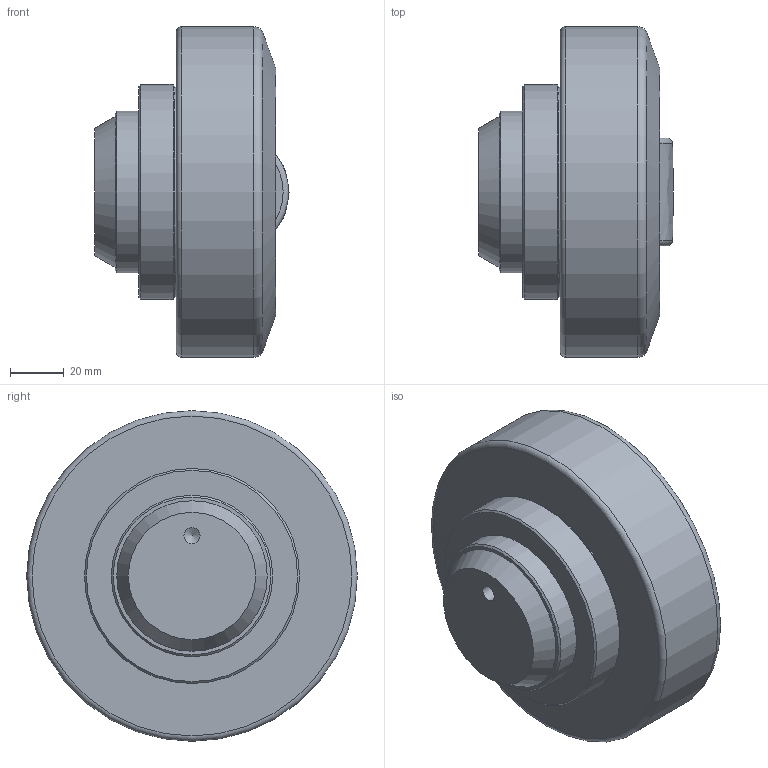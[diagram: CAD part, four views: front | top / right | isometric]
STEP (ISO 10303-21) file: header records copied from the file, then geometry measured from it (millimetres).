
FILE_DESCRIPTION(/* description */ (''),/* implementation_level */ '2;1');
FILE_NAME(/* name */ 'C:\Users\gabriele oddo\Desktop\400-0228.STEP',/* time_stamp */ '2023-07-27T12:06:17+02:00',/* author */ ('gabriele oddo'),/* organization */ (''),/* preprocessor_version */ 'ST-DEVELOPER v19',/* originating_system */ 'Autodesk Inventor 2023',/* authorisation */ '');
FILE_SCHEMA (('AUTOMOTIVE_DESIGN { 1 0 10303 214 3 1 1 }'));
Length unit declared in the file: millimetre
Products named in the file (1): 400-0228
Bounding box: 72.3 x 123 x 123 mm (x, y, z)
Volume: 537614.8 mm3; surface area: 42212.2 mm2
Topology: 1 solids, 1 shells, 60 faces, 134 edges, 89 vertices
Faces by surface type: plane 40, cylinder 9, cone 6, torus 4, bspline 1
Full cylindrical faces by diameter (mm): 6 x1, 12.5 x4, 60 x1, 78 x1, 80 x1, 123 x1
Entity records: 1804 total; most frequent: CARTESIAN_POINT 337, DIRECTION 285, ORIENTED_EDGE 266, EDGE_CURVE 133, AXIS2_PLACEMENT_3D 98, LINE 89, VECTOR 89, VERTEX_POINT 89
